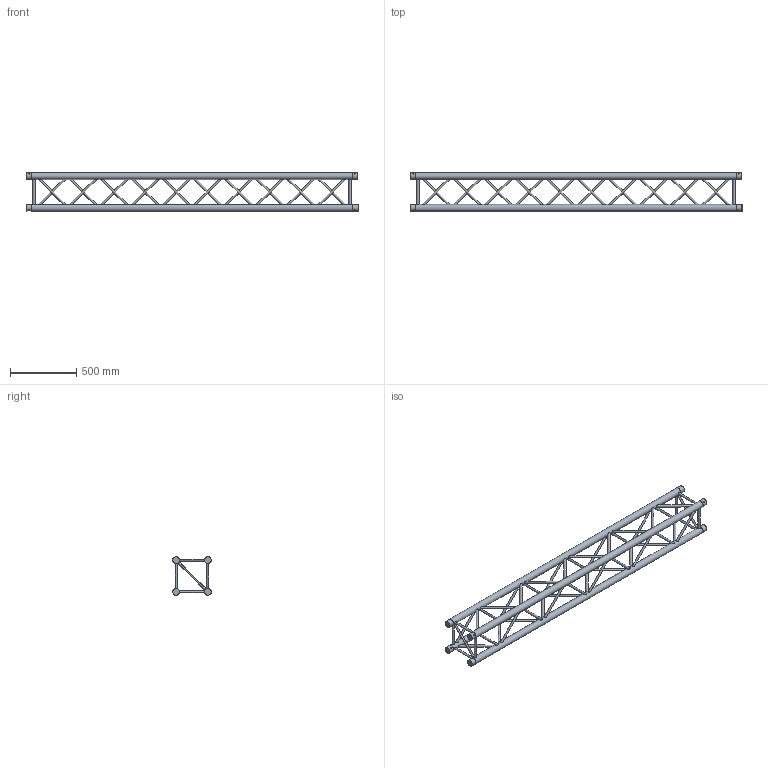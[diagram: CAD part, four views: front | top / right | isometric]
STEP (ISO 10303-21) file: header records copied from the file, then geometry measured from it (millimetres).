
FILE_DESCRIPTION(/* description */ (''),/* implementation_level */ '2;1');
FILE_NAME(/* name */ 'M:\Symbolen\STP\30-er truss\111080148.stp',/* time_stamp */ '2015-01-30T10:00:58+01:00',/* author */ ('Stephan'),/* organization */ (''),/* preprocessor_version */ 'ST-DEVELOPER v15.6',/* originating_system */ 'Autodesk Inventor 2015',/* authorisation */ '');
FILE_SCHEMA (('AUTOMOTIVE_DESIGN { 1 0 10303 214 3 1 1 }'));
Length unit declared in the file: millimetre
Products named in the file (1): 160023737
Bounding box: 2500 x 289.98 x 289.98 mm (x, y, z)
Volume: 17969037.9 mm3; surface area: 2317853 mm2
Topology: 6 solids, 54 shells, 304 faces, 496 edges, 296 vertices
Faces by surface type: plane 216, cylinder 80, cone 8
Full cylindrical faces by diameter (mm): 10 x8, 12 x2, 16 x50, 49.5 x8, 51 x4
Entity records: 7877 total; most frequent: CARTESIAN_POINT 1625, DIRECTION 1186, ORIENTED_EDGE 992, AXIS2_PLACEMENT_3D 537, EDGE_LOOP 504, EDGE_CURVE 400, STYLED_ITEM 297, FACE_OUTER_BOUND 296
